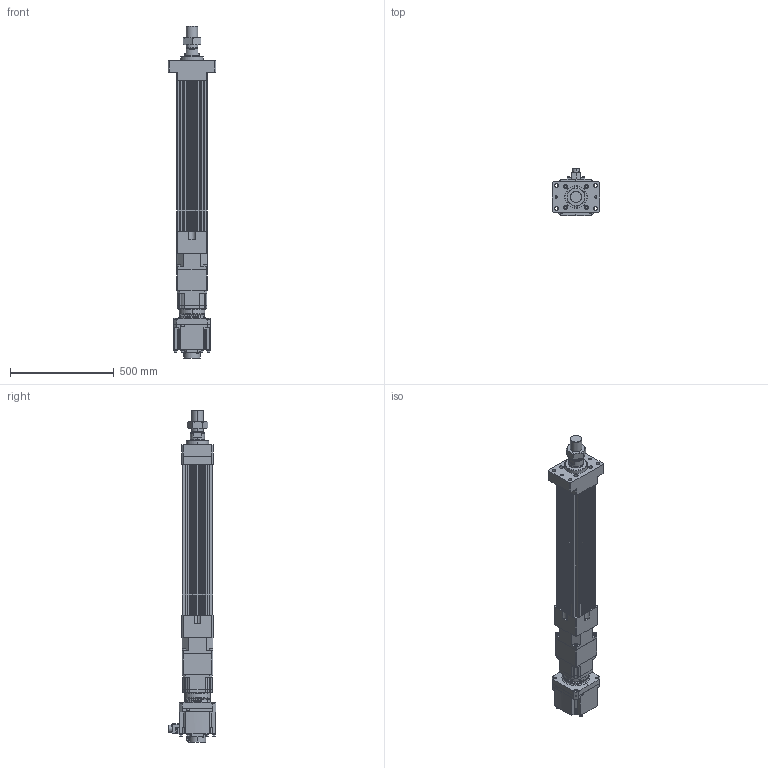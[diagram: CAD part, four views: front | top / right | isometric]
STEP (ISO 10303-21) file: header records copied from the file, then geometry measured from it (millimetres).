
FILE_DESCRIPTION (( 'STEP AP203' ), '1' );
FILE_NAME ('HES150NS(HS)-S450-W035G00-M-FM.STEP', '2023-02-01T04:41:08', ( 'tms' ), ( '' ), 'SwSTEP 2.0', 'SolidWorks 2013', '' );
FILE_SCHEMA (( 'CONFIG_CONTROL_DESIGN' ));
Length unit declared in the file: millimetre
Products named in the file (9): HG-SR352; M56X2.0P; P0403500801; HES150-S450-G142-FM; P1301500001; AB142-003[HG-SR352]; AB1421; HES150NS(HS)-S450-W035G00-M-FM; HES150 ROD M ST450
Assembly tree (8 placements, depth 3):
  HES150NS(HS)-S450-W035G00-M-FM
    HES150-S450-G142-FM
    HES150 ROD M ST450
    M56X2.0P
    AB142-003[HG-SR352]
      AB1421
      P1301500001
      P0403500801
    HG-SR352
Bounding box: 230 x 228.85 x 1597.5 mm (x, y, z)
Volume: 18303452.8 mm3; surface area: 1975368.8 mm2
Topology: 5 solids, 23 shells, 1508 faces, 3908 edges, 2538 vertices
Faces by surface type: cylinder 687, plane 587, cone 152, bspline 76, torus 6
Entity records: 55082 total; most frequent: CARTESIAN_POINT 16753, DIRECTION 8014, ORIENTED_EDGE 7718, EDGE_CURVE 3881, AXIS2_PLACEMENT_3D 3024, VERTEX_POINT 2538, LINE 1966, VECTOR 1966
